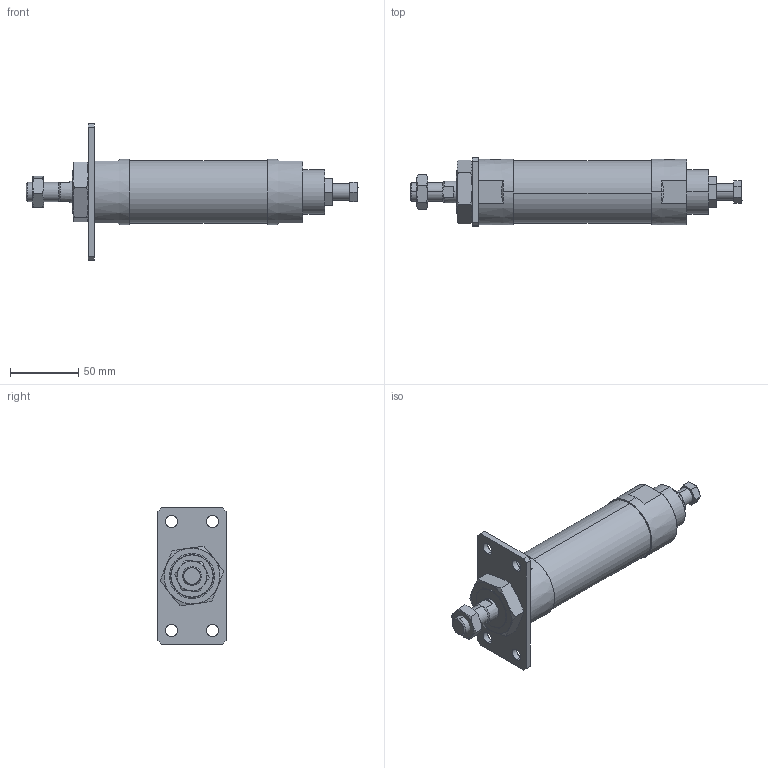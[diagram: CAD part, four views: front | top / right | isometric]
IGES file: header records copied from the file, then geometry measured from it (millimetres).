
Start section: SolidWorks IGES file using analytic representation for surfaces
Global section: file name: C:\Users\Toshiba\Desktop\JGA2-40-50-A.IGS; native system: SolidWorks 2014; preprocessor: SolidWorks 2014; author: Toshiba; date: 160420.130908; units: millimetre
Bounding box: 243.5 x 50 x 100 mm (x, y, z)
Surface area: 55704.1 mm2 (no closed solid volume)
Topology: 0 solids, 0 shells, 144 faces, 2860 edges, 2856 vertices
Faces by surface type: bspline 94, revolution 50
